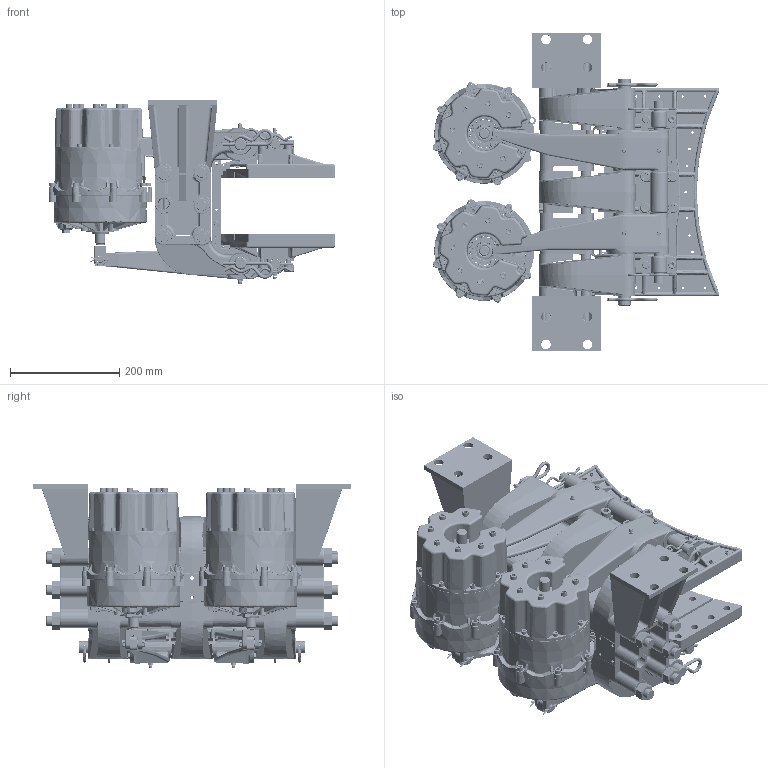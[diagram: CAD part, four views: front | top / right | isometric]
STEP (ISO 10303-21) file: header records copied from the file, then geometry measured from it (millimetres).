
FILE_DESCRIPTION (( 'STEP AP214' ), '1' );
FILE_NAME ('5026-SAW-RH.STEP', '2024-03-28T19:08:29', ( '' ), ( '' ), 'SwSTEP 2.0', 'SolidWorks 2023', '' );
FILE_SCHEMA (( 'AUTOMOTIVE_DESIGN' ));
Products named in the file (1): 5026-SAW-RH
Bounding box: 525.68 x 584.2 x 337.84 mm (x, y, z)
Surface area: 2255320.5 mm2 (no closed solid volume)
Topology: 0 solids, 319 shells, 6171 faces, 20118 edges, 13613 vertices
Faces by surface type: cylinder 1799, plane 1656, bspline 1211, cone 858, torus 594, sphere 53
Entity records: 291367 total; most frequent: CARTESIAN_POINT 135010, ORIENTED_EDGE 31686, DIRECTION 30064, EDGE_CURVE 19993, VERTEX_POINT 13613, AXIS2_PLACEMENT_3D 12078, CIRCLE 7117, EDGE_LOOP 6864
